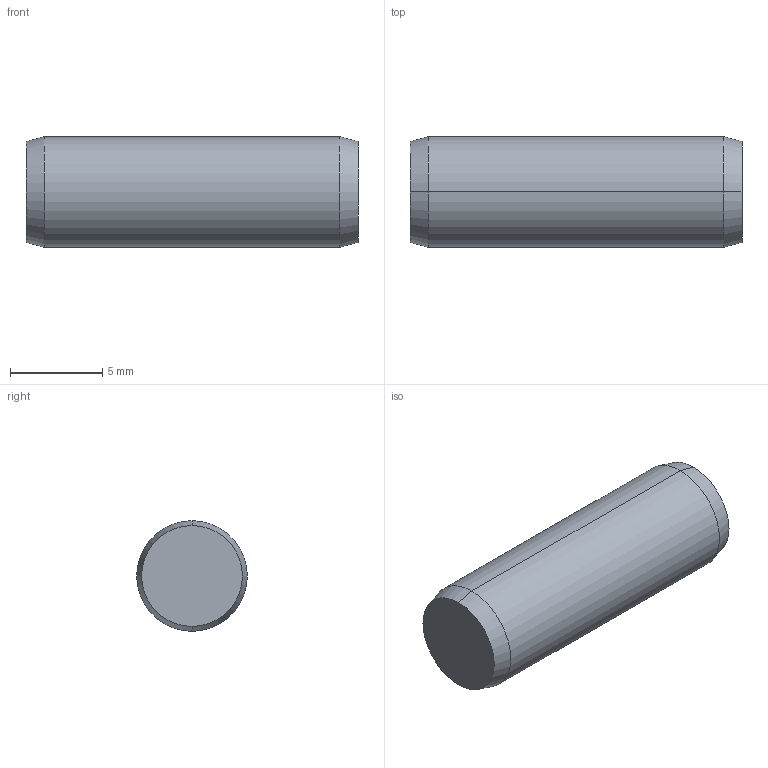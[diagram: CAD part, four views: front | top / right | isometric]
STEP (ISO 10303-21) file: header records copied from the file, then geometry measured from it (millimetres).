
FILE_DESCRIPTION (( 'STEP AP203' ), '1' );
FILE_NAME ('P1206.060-018.step', '2017-06-14T08:20:19', ( 'User' ), ( '' ), 'SwSTEP 2.0', 'SolidWorks 2009', '' );
FILE_SCHEMA (( 'CONFIG_CONTROL_DESIGN' ));
Length unit declared in the file: millimetre
Products named in the file (1): P1206.060-018
Bounding box: 18 x 6 x 6 mm (x, y, z)
Volume: 504 mm3; surface area: 385.8 mm2
Topology: 1 solids, 1 shells, 8 faces, 14 edges, 8 vertices
Faces by surface type: cone 4, cylinder 2, plane 2
Entity records: 271 total; most frequent: DIRECTION 40, CARTESIAN_POINT 31, ORIENTED_EDGE 28, AXIS2_PLACEMENT_3D 17, EDGE_CURVE 14, EDGE_LOOP 8, ADVANCED_FACE 8, VERTEX_POINT 8
